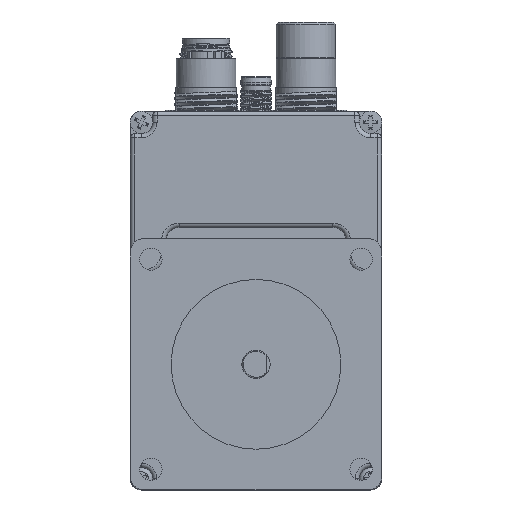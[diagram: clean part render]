
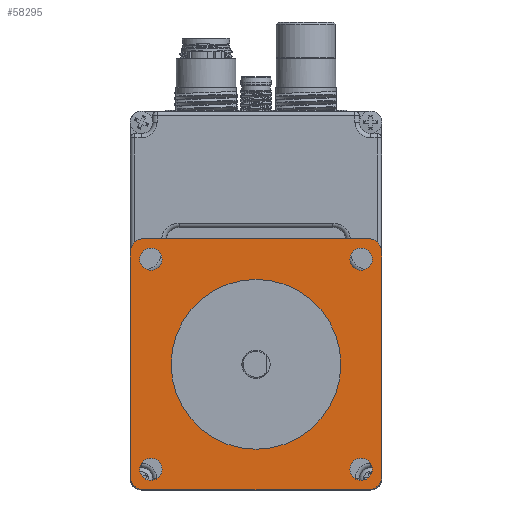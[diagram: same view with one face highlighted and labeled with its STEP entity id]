
A CAD part, front view. The second image highlights one B-rep face of the part: STEP entity #58295.
In plain terms, the highlighted planar face has unit normal (0, -1, 0).
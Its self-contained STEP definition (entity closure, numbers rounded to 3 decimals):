
#5892=CIRCLE('',#75718,19.05);
#5893=CIRCLE('',#75720,3.);
#5894=CIRCLE('',#75721,3.);
#5895=CIRCLE('',#75722,3.);
#5896=CIRCLE('',#75723,3.);
#5897=CIRCLE('',#75724,2.5);
#5898=CIRCLE('',#75725,2.5);
#5899=CIRCLE('',#75726,2.5);
#5900=CIRCLE('',#75727,2.5);
#22332=ORIENTED_EDGE('',*,*,#31077,.T.);
#22333=ORIENTED_EDGE('',*,*,#31078,.F.);
#22334=ORIENTED_EDGE('',*,*,#31079,.T.);
#22335=ORIENTED_EDGE('',*,*,#31080,.F.);
#22336=ORIENTED_EDGE('',*,*,#31081,.T.);
#22337=ORIENTED_EDGE('',*,*,#31082,.F.);
#22338=ORIENTED_EDGE('',*,*,#31083,.T.);
#22339=ORIENTED_EDGE('',*,*,#31084,.F.);
#22340=ORIENTED_EDGE('',*,*,#31076,.F.);
#22341=ORIENTED_EDGE('',*,*,#31085,.F.);
#22342=ORIENTED_EDGE('',*,*,#31086,.F.);
#22343=ORIENTED_EDGE('',*,*,#31087,.F.);
#22344=ORIENTED_EDGE('',*,*,#31088,.F.);
#31076=EDGE_CURVE('',#36933,#36933,#5892,.T.);
#31077=EDGE_CURVE('',#36934,#36935,#41280,.T.);
#31078=EDGE_CURVE('',#36936,#36935,#5893,.T.);
#31079=EDGE_CURVE('',#36936,#36937,#41281,.T.);
#31080=EDGE_CURVE('',#36938,#36937,#5894,.T.);
#31081=EDGE_CURVE('',#36938,#36939,#41282,.T.);
#31082=EDGE_CURVE('',#36940,#36939,#5895,.T.);
#31083=EDGE_CURVE('',#36940,#36941,#41283,.T.);
#31084=EDGE_CURVE('',#36934,#36941,#5896,.T.);
#31085=EDGE_CURVE('',#36942,#36942,#5897,.T.);
#31086=EDGE_CURVE('',#36943,#36943,#5898,.T.);
#31087=EDGE_CURVE('',#36944,#36944,#5899,.T.);
#31088=EDGE_CURVE('',#36945,#36945,#5900,.T.);
#36933=VERTEX_POINT('',#144515);
#36934=VERTEX_POINT('',#144518);
#36935=VERTEX_POINT('',#144519);
#36936=VERTEX_POINT('',#144521);
#36937=VERTEX_POINT('',#144523);
#36938=VERTEX_POINT('',#144525);
#36939=VERTEX_POINT('',#144527);
#36940=VERTEX_POINT('',#144529);
#36941=VERTEX_POINT('',#144531);
#36942=VERTEX_POINT('',#144534);
#36943=VERTEX_POINT('',#144536);
#36944=VERTEX_POINT('',#144538);
#36945=VERTEX_POINT('',#144540);
#41280=LINE('',#144517,#45603);
#41281=LINE('',#144522,#45604);
#41282=LINE('',#144526,#45605);
#41283=LINE('',#144530,#45606);
#45603=VECTOR('',#87983,1000.);
#45604=VECTOR('',#87986,1000.);
#45605=VECTOR('',#87989,1000.);
#45606=VECTOR('',#87992,1000.);
#49491=EDGE_LOOP('',(#22332,#22333,#22334,#22335,#22336,#22337,#22338,#22339));
#49492=EDGE_LOOP('',(#22340));
#49493=EDGE_LOOP('',(#22341));
#49494=EDGE_LOOP('',(#22342));
#49495=EDGE_LOOP('',(#22343));
#49496=EDGE_LOOP('',(#22344));
#53377=FACE_BOUND('',#49491,.T.);
#53378=FACE_BOUND('',#49492,.T.);
#53379=FACE_BOUND('',#49493,.T.);
#53380=FACE_BOUND('',#49494,.T.);
#53381=FACE_BOUND('',#49495,.T.);
#53382=FACE_BOUND('',#49496,.T.);
#55089=PLANE('',#75719);
#58295=ADVANCED_FACE('',(#53377,#53378,#53379,#53380,#53381,#53382),#55089,
 .T.);
#75718=AXIS2_PLACEMENT_3D('',#144514,#87979,#87980);
#75719=AXIS2_PLACEMENT_3D('',#144516,#87981,#87982);
#75720=AXIS2_PLACEMENT_3D('',#144520,#87984,#87985);
#75721=AXIS2_PLACEMENT_3D('',#144524,#87987,#87988);
#75722=AXIS2_PLACEMENT_3D('',#144528,#87990,#87991);
#75723=AXIS2_PLACEMENT_3D('',#144532,#87993,#87994);
#75724=AXIS2_PLACEMENT_3D('',#144533,#87995,#87996);
#75725=AXIS2_PLACEMENT_3D('',#144535,#87997,#87998);
#75726=AXIS2_PLACEMENT_3D('',#144537,#87999,#88000);
#75727=AXIS2_PLACEMENT_3D('',#144539,#88001,#88002);
#87979=DIRECTION('',(0.,-1.,0.));
#87980=DIRECTION('',(1.,0.,0.));
#87981=DIRECTION('',(0.,-1.,0.));
#87982=DIRECTION('',(-1.,0.,0.));
#87983=DIRECTION('',(-1.,0.,0.));
#87984=DIRECTION('',(0.,1.,0.));
#87985=DIRECTION('',(-1.,0.,0.));
#87986=DIRECTION('',(0.,0.,-1.));
#87987=DIRECTION('',(0.,1.,0.));
#87988=DIRECTION('',(0.,0.,-1.));
#87989=DIRECTION('',(1.,0.,0.));
#87990=DIRECTION('',(0.,1.,0.));
#87991=DIRECTION('',(1.,0.,0.));
#87992=DIRECTION('',(0.,0.,1.));
#87993=DIRECTION('',(0.,1.,0.));
#87994=DIRECTION('',(0.,0.,1.));
#87995=DIRECTION('',(0.,-1.,0.));
#87996=DIRECTION('',(-1.,0.,0.));
#87997=DIRECTION('',(0.,-1.,0.));
#87998=DIRECTION('',(-1.,0.,0.));
#87999=DIRECTION('',(0.,-1.,0.));
#88000=DIRECTION('',(-1.,0.,0.));
#88001=DIRECTION('',(0.,-1.,0.));
#88002=DIRECTION('',(-1.,0.,0.));
#144514=CARTESIAN_POINT('',(0.,1.6,0.));
#144515=CARTESIAN_POINT('',(19.05,1.6,0.));
#144516=CARTESIAN_POINT('',(0.,1.6,0.));
#144517=CARTESIAN_POINT('',(25.2,1.6,28.2));
#144518=CARTESIAN_POINT('',(25.2,1.6,28.2));
#144519=CARTESIAN_POINT('',(-25.2,1.6,28.2));
#144520=CARTESIAN_POINT('',(-25.2,1.6,25.2));
#144521=CARTESIAN_POINT('',(-28.2,1.6,25.2));
#144522=CARTESIAN_POINT('',(-28.2,1.6,25.2));
#144523=CARTESIAN_POINT('',(-28.2,1.6,-25.2));
#144524=CARTESIAN_POINT('',(-25.2,1.6,-25.2));
#144525=CARTESIAN_POINT('',(-25.2,1.6,-28.2));
#144526=CARTESIAN_POINT('',(-25.2,1.6,-28.2));
#144527=CARTESIAN_POINT('',(25.2,1.6,-28.2));
#144528=CARTESIAN_POINT('',(25.2,1.6,-25.2));
#144529=CARTESIAN_POINT('',(28.2,1.6,-25.2));
#144530=CARTESIAN_POINT('',(28.2,1.6,-25.2));
#144531=CARTESIAN_POINT('',(28.2,1.6,25.2));
#144532=CARTESIAN_POINT('',(25.2,1.6,25.2));
#144533=CARTESIAN_POINT('',(-23.57,1.6,23.57));
#144534=CARTESIAN_POINT('',(-26.07,1.6,23.57));
#144535=CARTESIAN_POINT('',(23.57,1.6,23.57));
#144536=CARTESIAN_POINT('',(21.07,1.6,23.57));
#144537=CARTESIAN_POINT('',(23.57,1.6,-23.57));
#144538=CARTESIAN_POINT('',(21.07,1.6,-23.57));
#144539=CARTESIAN_POINT('',(-23.57,1.6,-23.57));
#144540=CARTESIAN_POINT('',(-26.07,1.6,-23.57));
